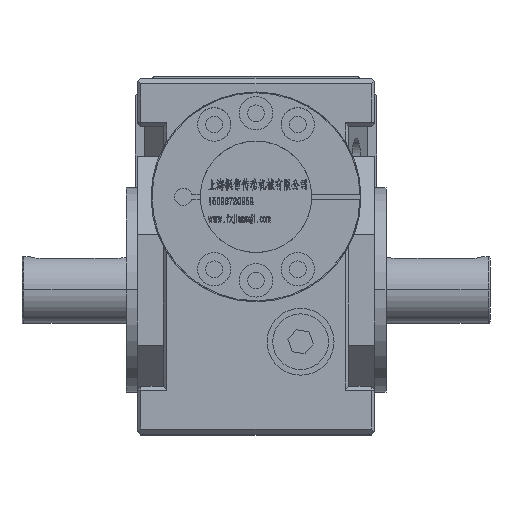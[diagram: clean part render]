
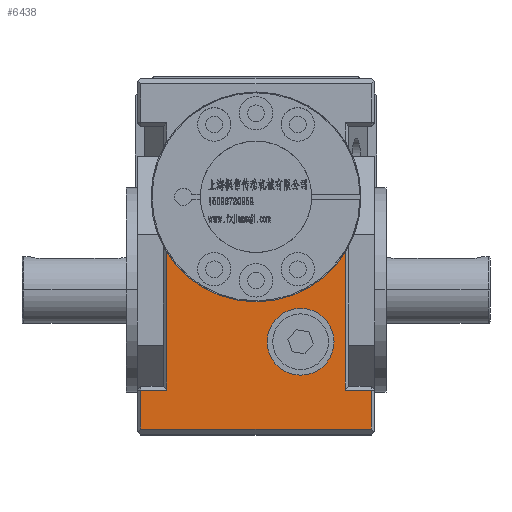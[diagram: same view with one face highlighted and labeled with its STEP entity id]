
A CAD part, top view. The second image highlights one B-rep face of the part: STEP entity #6438.
In plain terms, the highlighted planar face has unit normal (0, 0, 1).
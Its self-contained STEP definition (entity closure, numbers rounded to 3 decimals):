
#221 = LINE ( 'NONE', #91102, #74022 ) ;
#3678 = VECTOR ( 'NONE', #65513, 1000. ) ;
#4030 = ORIENTED_EDGE ( 'NONE', *, *, #107095, .T. ) ;
#5309 = VERTEX_POINT ( 'NONE', #92813 ) ;
#6438 = ADVANCED_FACE ( 'NONE', ( #86776, #11752 ), #45165, .F. ) ;
#7308 = EDGE_CURVE ( 'NONE', #69805, #79891, #72667, .T. ) ;
#7367 = VECTOR ( 'NONE', #40513, 1000. ) ;
#7890 = DIRECTION ( 'NONE',  ( 0., 1., 0. ) ) ;
#8408 = AXIS2_PLACEMENT_3D ( 'NONE', #31326, #105275, #70786 ) ;
#11752 = FACE_BOUND ( 'NONE', #52061, .T. ) ;
#15337 = ORIENTED_EDGE ( 'NONE', *, *, #21927, .T. ) ;
#15341 = CIRCLE ( 'NONE', #8408, 28.25 ) ;
#16082 = CARTESIAN_POINT ( 'NONE',  ( 24., -27., 40. ) ) ;
#21927 = EDGE_CURVE ( 'NONE', #26426, #81261, #221, .T. ) ;
#22261 = ORIENTED_EDGE ( 'NONE', *, *, #56150, .T. ) ;
#23345 = ORIENTED_EDGE ( 'NONE', *, *, #33166, .T. ) ;
#24590 = LINE ( 'NONE', #76070, #7367 ) ;
#24960 = VERTEX_POINT ( 'NONE', #84701 ) ;
#25212 = VECTOR ( 'NONE', #62280, 1000. ) ;
#26426 = VERTEX_POINT ( 'NONE', #49779 ) ;
#27727 = ORIENTED_EDGE ( 'NONE', *, *, #7308, .T. ) ;
#28003 = DIRECTION ( 'NONE',  ( -1., 0., 0. ) ) ;
#28893 = CARTESIAN_POINT ( 'NONE',  ( -24., -26., 40. ) ) ;
#31326 = CARTESIAN_POINT ( 'NONE',  ( 0., 25., 40. ) ) ;
#32129 = LINE ( 'NONE', #72108, #3678 ) ;
#33166 = EDGE_CURVE ( 'NONE', #81261, #79845, #103008, .T. ) ;
#34809 = EDGE_CURVE ( 'NONE', #5309, #69876, #97827, .T. ) ;
#36971 = DIRECTION ( 'NONE',  ( -1., 0., 0. ) ) ;
#37100 = LINE ( 'NONE', #28893, #25212 ) ;
#38215 = VECTOR ( 'NONE', #28003, 1000. ) ;
#39070 = LINE ( 'NONE', #99227, #57769 ) ;
#40236 = VERTEX_POINT ( 'NONE', #49751 ) ;
#40513 = DIRECTION ( 'NONE',  ( -1., 0., 0. ) ) ;
#41318 = CARTESIAN_POINT ( 'NONE',  ( 12., -14., 40. ) ) ;
#41344 = CARTESIAN_POINT ( 'NONE',  ( 24., 10.098, 40. ) ) ;
#43291 = CIRCLE ( 'NONE', #57270, 9. ) ;
#45165 = PLANE ( 'NONE',  #59458 ) ;
#46078 = DIRECTION ( 'NONE',  ( 1., 0., 0. ) ) ;
#48902 = AXIS2_PLACEMENT_3D ( 'NONE', #41318, #67042, #58823 ) ;
#49751 = CARTESIAN_POINT ( 'NONE',  ( -24., 10.098, 40. ) ) ;
#49779 = CARTESIAN_POINT ( 'NONE',  ( 31., -37.5, 40. ) ) ;
#52061 = EDGE_LOOP ( 'NONE', ( #86606, #87930 ) ) ;
#52845 = EDGE_LOOP ( 'NONE', ( #27727, #91537, #15337, #23345, #88498, #107042, #22261, #4030 ) ) ;
#55544 = CARTESIAN_POINT ( 'NONE',  ( 32., 57., 40. ) ) ;
#56150 = EDGE_CURVE ( 'NONE', #40236, #24960, #37100, .T. ) ;
#57270 = AXIS2_PLACEMENT_3D ( 'NONE', #96438, #80020, #46078 ) ;
#57769 = VECTOR ( 'NONE', #99765, 1000. ) ;
#58823 = DIRECTION ( 'NONE',  ( 1., 0., 0. ) ) ;
#59458 = AXIS2_PLACEMENT_3D ( 'NONE', #55544, #88934, #36971 ) ;
#62280 = DIRECTION ( 'NONE',  ( 0., -1., 0. ) ) ;
#63923 = DIRECTION ( 'NONE',  ( 0., -1., 0. ) ) ;
#65513 = DIRECTION ( 'NONE',  ( 1., 0., 0. ) ) ;
#67042 = DIRECTION ( 'NONE',  ( 0., 0., 1. ) ) ;
#69089 = CARTESIAN_POINT ( 'NONE',  ( 32., -27., 40. ) ) ;
#69805 = VERTEX_POINT ( 'NONE', #107662 ) ;
#69876 = VERTEX_POINT ( 'NONE', #99978 ) ;
#70786 = DIRECTION ( 'NONE',  ( 0., 1., 0. ) ) ;
#72108 = CARTESIAN_POINT ( 'NONE',  ( 32., -37.5, 40. ) ) ;
#72667 = LINE ( 'NONE', #81426, #92360 ) ;
#74022 = VECTOR ( 'NONE', #7890, 1000. ) ;
#75780 = CARTESIAN_POINT ( 'NONE',  ( -31., -37.5, 40. ) ) ;
#76070 = CARTESIAN_POINT ( 'NONE',  ( -32., -27., 40. ) ) ;
#76693 = EDGE_CURVE ( 'NONE', #79891, #26426, #32129, .T. ) ;
#77794 = EDGE_CURVE ( 'NONE', #79845, #82184, #39070, .T. ) ;
#79845 = VERTEX_POINT ( 'NONE', #16082 ) ;
#79891 = VERTEX_POINT ( 'NONE', #75780 ) ;
#80020 = DIRECTION ( 'NONE',  ( 0., 0., 1. ) ) ;
#80643 = CARTESIAN_POINT ( 'NONE',  ( 31., -27., 40. ) ) ;
#81261 = VERTEX_POINT ( 'NONE', #80643 ) ;
#81426 = CARTESIAN_POINT ( 'NONE',  ( -31., 57., 40. ) ) ;
#82184 = VERTEX_POINT ( 'NONE', #41344 ) ;
#84701 = CARTESIAN_POINT ( 'NONE',  ( -24., -27., 40. ) ) ;
#86606 = ORIENTED_EDGE ( 'NONE', *, *, #34809, .F. ) ;
#86776 = FACE_OUTER_BOUND ( 'NONE', #52845, .T. ) ;
#87930 = ORIENTED_EDGE ( 'NONE', *, *, #92363, .F. ) ;
#88498 = ORIENTED_EDGE ( 'NONE', *, *, #77794, .T. ) ;
#88934 = DIRECTION ( 'NONE',  ( 0., 0., -1. ) ) ;
#91102 = CARTESIAN_POINT ( 'NONE',  ( 31., -26., 40. ) ) ;
#91537 = ORIENTED_EDGE ( 'NONE', *, *, #76693, .T. ) ;
#92360 = VECTOR ( 'NONE', #63923, 1000. ) ;
#92363 = EDGE_CURVE ( 'NONE', #69876, #5309, #43291, .T. ) ;
#92813 = CARTESIAN_POINT ( 'NONE',  ( 21., -14., 40. ) ) ;
#95008 = EDGE_CURVE ( 'NONE', #40236, #82184, #15341, .T. ) ;
#96438 = CARTESIAN_POINT ( 'NONE',  ( 12., -14., 40. ) ) ;
#97827 = CIRCLE ( 'NONE', #48902, 9. ) ;
#99227 = CARTESIAN_POINT ( 'NONE',  ( 24., 11.845, 40. ) ) ;
#99765 = DIRECTION ( 'NONE',  ( 0., 1., 0. ) ) ;
#99978 = CARTESIAN_POINT ( 'NONE',  ( 3., -14., 40. ) ) ;
#103008 = LINE ( 'NONE', #69089, #38215 ) ;
#105275 = DIRECTION ( 'NONE',  ( 0., 0., 1. ) ) ;
#107042 = ORIENTED_EDGE ( 'NONE', *, *, #95008, .F. ) ;
#107095 = EDGE_CURVE ( 'NONE', #24960, #69805, #24590, .T. ) ;
#107662 = CARTESIAN_POINT ( 'NONE',  ( -31., -27., 40. ) ) ;
